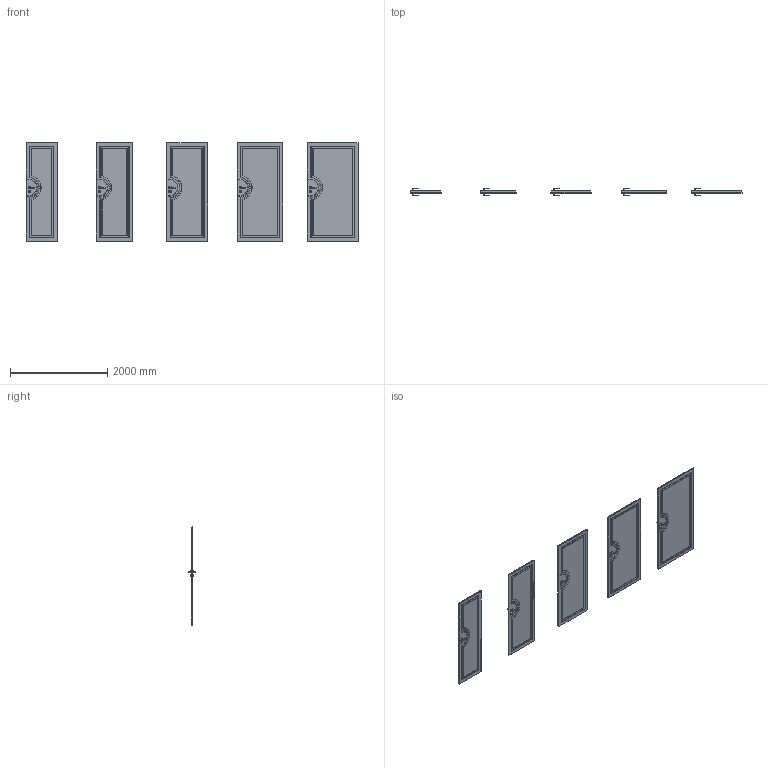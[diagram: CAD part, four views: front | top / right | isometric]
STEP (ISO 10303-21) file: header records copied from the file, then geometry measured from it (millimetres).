
FILE_DESCRIPTION(/* description */ (''),/* implementation_level */ '2;1');
FILE_NAME(/* name */ '049907_A_5-Skrzydło ART DECO model 5_ polska norma _PN__ przylgowe.stp',/* time_stamp */ '2024-09-13T12:47:56+02:00',/* author */ (''),/* organization */ (''),/* preprocessor_version */ 'ST-DEVELOPER v16',/* originating_system */ 'SIEMENS PLM Software NX 11.0',/* authorisation */ '');
FILE_SCHEMA (('AUTOMOTIVE_DESIGN { 1 0 10303 214 3 1 1 1 }'));
Products named in the file (1): msmo68508806qn1y
Bounding box: 6844 x 153.13 x 2030 mm (x, y, z)
Volume: 328481693.1 mm3; surface area: 18555124.4 mm2
Topology: 25 solids, 25 shells, 2220 faces, 5150 edges, 2920 vertices
Faces by surface type: cylinder 700, plane 680, bspline 280, torus 240, cone 180, sphere 140
Entity records: 68489 total; most frequent: CARTESIAN_POINT 19331, DIRECTION 10592, ORIENTED_EDGE 10020, EDGE_CURVE 5010, AXIS2_PLACEMENT_3D 4061, VERTEX_POINT 2920, LINE 2470, VECTOR 2470
